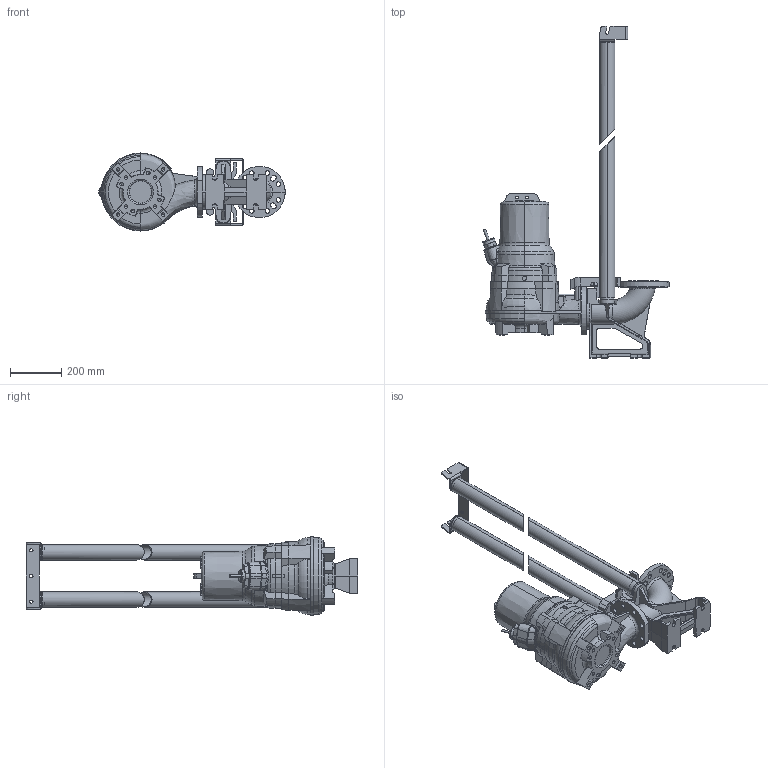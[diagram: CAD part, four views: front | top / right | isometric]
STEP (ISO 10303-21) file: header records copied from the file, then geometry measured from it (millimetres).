
FILE_DESCRIPTION (( 'STEP AP203' ), '1' );
FILE_NAME ('80FWC-V_5,5kW COUPLING SYSTEM.STEP', '2025-03-21T16:16:24', ( '' ), ( '' ), 'SwSTEP 2.0', 'SolidWorks 2023', '' );
FILE_SCHEMA (( 'CONFIG_CONTROL_DESIGN' ));
Length unit declared in the file: millimetre
Products named in the file (1): 80FWC-V_5,5kW COUPLING SYSTEM
Bounding box: 728.51 x 1297.97 x 305.91 mm (x, y, z)
Volume: 29870357.8 mm3; surface area: 1921666 mm2
Topology: 2 solids, 3 shells, 954 faces, 2509 edges, 1594 vertices
Faces by surface type: plane 427, cylinder 220, cone 139, bspline 104, torus 58, sphere 6
Entity records: 39816 total; most frequent: CARTESIAN_POINT 17286, ORIENTED_EDGE 4994, DIRECTION 4295, EDGE_CURVE 2497, VERTEX_POINT 1594, AXIS2_PLACEMENT_3D 1577, LINE 1141, VECTOR 1141
